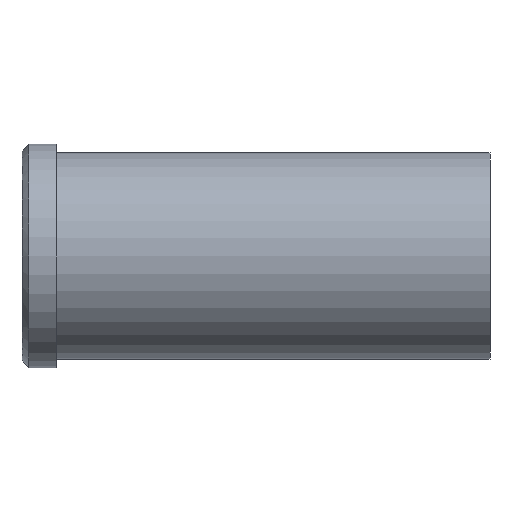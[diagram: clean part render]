
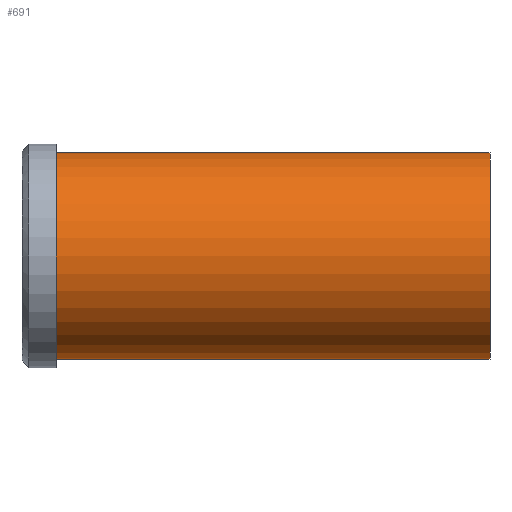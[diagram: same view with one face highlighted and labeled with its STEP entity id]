
A CAD part, front view. The second image highlights one B-rep face of the part: STEP entity #691.
In plain terms, the highlighted cylindrical face has radius 30 mm (diameter 60 mm), a partial arc.
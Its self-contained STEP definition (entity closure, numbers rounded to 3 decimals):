
#501=CARTESIAN_POINT('Vertex',(0.,0.,-30.)) ;
#506=CARTESIAN_POINT('Axis2P3D Location',(0.,0.,0.)) ;
#510=CARTESIAN_POINT('Vertex',(0.,-30.,0.)) ;
#513=CARTESIAN_POINT('Axis2P3D Location',(0.,0.,0.)) ;
#517=CARTESIAN_POINT('Vertex',(0.,0.,30.)) ;
#631=CARTESIAN_POINT('Line Origine',(126.,0.,30.)) ;
#635=CARTESIAN_POINT('Vertex',(126.,0.,30.)) ;
#649=CARTESIAN_POINT('Vertex',(126.,0.,-30.)) ;
#652=CARTESIAN_POINT('Line Origine',(126.,0.,-30.)) ;
#666=CARTESIAN_POINT('Axis2P3D Location',(126.,0.,0.)) ;
#671=CARTESIAN_POINT('Axis2P3D Location',(126.,0.,0.)) ;
#675=CARTESIAN_POINT('Vertex',(126.,-30.,0.)) ;
#678=CARTESIAN_POINT('Axis2P3D Location',(126.,0.,0.)) ;
#507=DIRECTION('Axis2P3D Direction',(1.,0.,-0.)) ;
#514=DIRECTION('Axis2P3D Direction',(1.,0.,-0.)) ;
#632=DIRECTION('Vector Direction',(-1.,0.,0.)) ;
#653=DIRECTION('Vector Direction',(-1.,0.,0.)) ;
#667=DIRECTION('Axis2P3D Direction',(-1.,-0.,-0.)) ;
#668=DIRECTION('Axis2P3D XDirection',(0.,0.,-1.)) ;
#672=DIRECTION('Axis2P3D Direction',(-1.,-0.,-0.)) ;
#679=DIRECTION('Axis2P3D Direction',(-1.,-0.,-0.)) ;
#508=AXIS2_PLACEMENT_3D('Circle Axis2P3D',#506,#507,$) ;
#515=AXIS2_PLACEMENT_3D('Circle Axis2P3D',#513,#514,$) ;
#669=AXIS2_PLACEMENT_3D('Cylinder Axis2P3D',#666,#667,#668) ;
#673=AXIS2_PLACEMENT_3D('Circle Axis2P3D',#671,#672,$) ;
#680=AXIS2_PLACEMENT_3D('Circle Axis2P3D',#678,#679,$) ;
#684=ORIENTED_EDGE('',*,*,#656,.T.) ;
#685=ORIENTED_EDGE('',*,*,#677,.F.) ;
#686=ORIENTED_EDGE('',*,*,#682,.F.) ;
#687=ORIENTED_EDGE('',*,*,#637,.T.) ;
#688=ORIENTED_EDGE('',*,*,#519,.T.) ;
#689=ORIENTED_EDGE('',*,*,#512,.T.) ;
#633=VECTOR('Line Direction',#632,1.) ;
#654=VECTOR('Line Direction',#653,1.) ;
#691=ADVANCED_FACE('353-50X136',(#690),#670,.T.) ;
#509=CIRCLE('generated circle',#508,30.) ;
#516=CIRCLE('generated circle',#515,30.) ;
#674=CIRCLE('generated circle',#673,30.) ;
#681=CIRCLE('generated circle',#680,30.) ;
#670=CYLINDRICAL_SURFACE('generated cylinder',#669,30.) ;
#512=EDGE_CURVE('',#511,#502,#509,.T.) ;
#519=EDGE_CURVE('',#518,#511,#516,.T.) ;
#637=EDGE_CURVE('',#636,#518,#634,.T.) ;
#656=EDGE_CURVE('',#502,#650,#655,.F.) ;
#677=EDGE_CURVE('',#676,#650,#674,.F.) ;
#682=EDGE_CURVE('',#636,#676,#681,.F.) ;
#683=EDGE_LOOP('',(#684,#685,#686,#687,#688,#689)) ;
#690=FACE_OUTER_BOUND('',#683,.T.) ;
#634=LINE('Line',#631,#633) ;
#655=LINE('Line',#652,#654) ;
#502=VERTEX_POINT('',#501) ;
#511=VERTEX_POINT('',#510) ;
#518=VERTEX_POINT('',#517) ;
#636=VERTEX_POINT('',#635) ;
#650=VERTEX_POINT('',#649) ;
#676=VERTEX_POINT('',#675) ;
